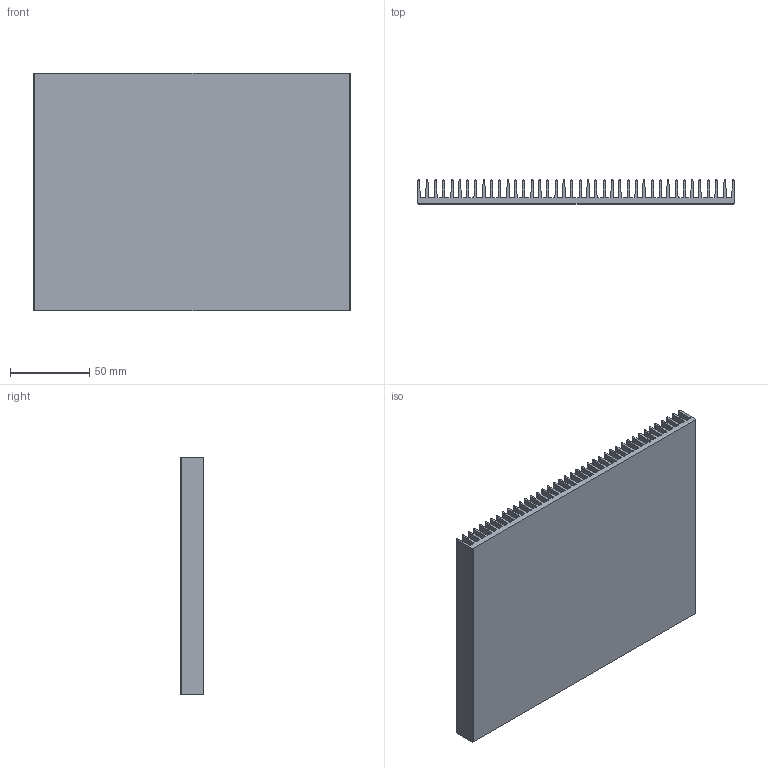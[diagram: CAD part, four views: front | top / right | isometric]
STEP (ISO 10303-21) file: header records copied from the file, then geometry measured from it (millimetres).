
FILE_DESCRIPTION (( 'STEP AP203' ), '1' );
FILE_NAME ('PR 240-150.step', '2002-10-21T08:42:34', ( 'Wolfgang Müller' ), ( 'DPS' ), 'SwSTEP 2.0', 'SolidWorks 2002264', '' );
FILE_SCHEMA (( 'CONFIG_CONTROL_DESIGN' ));
Length unit declared in the file: millimetre
Products named in the file (1): PR 240-150
Bounding box: 200 x 15 x 150 mm (x, y, z)
Volume: 202251.1 mm3; surface area: 191836.7 mm2
Topology: 1 solids, 1 shells, 242 faces, 720 edges, 480 vertices
Faces by surface type: plane 122, cylinder 120
Entity records: 8261 total; most frequent: DIRECTION 1446, CARTESIAN_POINT 1443, ORIENTED_EDGE 1440, EDGE_CURVE 720, AXIS2_PLACEMENT_3D 483, LINE 480, VECTOR 480, VERTEX_POINT 480
